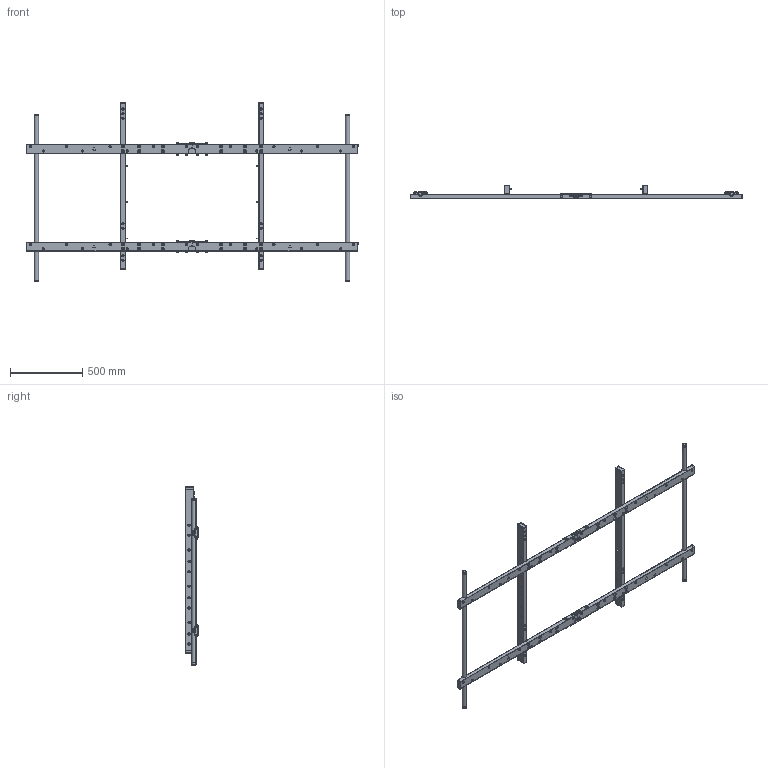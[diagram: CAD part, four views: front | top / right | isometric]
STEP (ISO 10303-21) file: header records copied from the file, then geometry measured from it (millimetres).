
FILE_DESCRIPTION(/* description */ ('PLANAR ASSY 109in'),/* implementation_level */ '2;1');
FILE_NAME(/* name */ 'PLANAR ASSY 109 IN.stp',/* time_stamp */ '2025-03-18T11:45:01+01:00',/* author */ ('p.weusten'),/* organization */ (''),/* preprocessor_version */ 'ST-DEVELOPER v20',/* originating_system */ 'Autodesk Inventor 2024',/* authorisation */ '');
FILE_SCHEMA (('AUTOMOTIVE_DESIGN { 1 0 10303 214 3 1 1 }'));
Length unit declared in the file: millimetre
Products named in the file (18): E000137015; 988D06; 945B92; 988D05; 945B93; 988D04; 945B91; 988D03; 945B90; 937039; 913819; 945B96; 988D07; 945B97; 937038; 914B02; 945B98; 914B03
Assembly tree (115 placements, depth 3):
  E000137015
    988D06
      945B92
      913819  x11
      937039  x2
    988D05
      945B93
      913819  x11
      937039  x2
    988D04  x2
      945B91
      913819
      937039
    988D03  x2
      945B90
      913819
      937039
    945B96  x2
    914B02  x32
    988D07  x2
      945B97
      937038
    945B98  x4
    914B03  x6
Bounding box: 2290 x 93.2 x 1229.2 mm (x, y, z)
Volume: 4213209.2 mm3; surface area: 2999158.1 mm2
Topology: 142 solids, 142 shells, 4052 faces, 9982 edges, 6420 vertices
Faces by surface type: plane 3026, cylinder 760, cone 192, torus 74
Full cylindrical faces by diameter (mm): 6 x14, 6.048 x78, 7 x22, 8 x32, 10.65 x8, 10.947 x78, 15.375 x78, 16 x22, 17.445 x4, 22.445 x4, 26 x2, 30 x6
Entity records: 28010 total; most frequent: CARTESIAN_POINT 4835, DIRECTION 4629, ORIENTED_EDGE 4556, EDGE_CURVE 2278, LINE 1733, VECTOR 1733, VERTEX_POINT 1502, AXIS2_PLACEMENT_3D 1448
